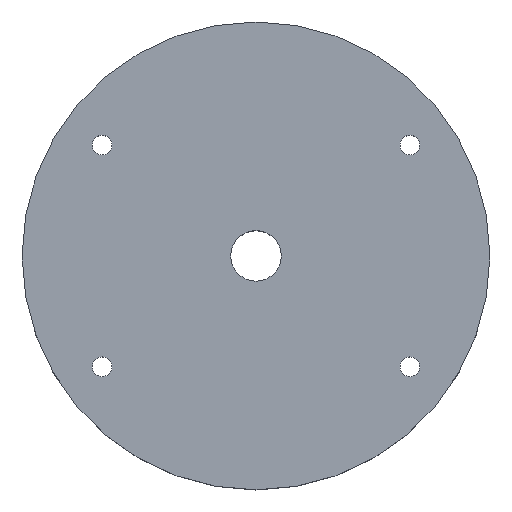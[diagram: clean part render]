
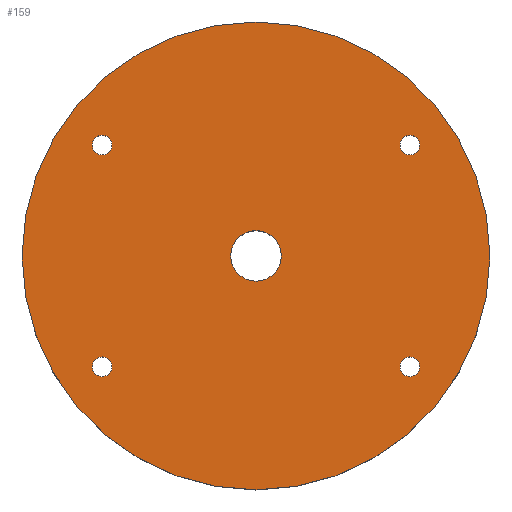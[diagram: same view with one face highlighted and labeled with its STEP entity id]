
A CAD part, top view. The second image highlights one B-rep face of the part: STEP entity #159.
In plain terms, the highlighted planar face has unit normal (0, 0, 1).
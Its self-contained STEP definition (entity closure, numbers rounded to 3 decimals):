
#24 = VERTEX_POINT('',#25);
#25 = CARTESIAN_POINT('',(38.,0.,7.));
#32 = CYLINDRICAL_SURFACE('',#33,38.);
#33 = AXIS2_PLACEMENT_3D('',#34,#35,#36);
#34 = CARTESIAN_POINT('',(0.,0.,0.));
#35 = DIRECTION('',(-0.,-0.,-1.));
#36 = DIRECTION('',(1.,0.,0.));
#51 = EDGE_CURVE('',#24,#24,#52,.T.);
#52 = SURFACE_CURVE('',#53,(#58,#65),.PCURVE_S1.);
#53 = CIRCLE('',#54,38.);
#54 = AXIS2_PLACEMENT_3D('',#55,#56,#57);
#55 = CARTESIAN_POINT('',(0.,0.,7.));
#56 = DIRECTION('',(0.,0.,1.));
#57 = DIRECTION('',(1.,0.,0.));
#58 = PCURVE('',#32,#59);
#59 = DEFINITIONAL_REPRESENTATION('',(#60),#64);
#60 = LINE('',#61,#62);
#61 = CARTESIAN_POINT('',(-0.,-7.));
#62 = VECTOR('',#63,1.);
#63 = DIRECTION('',(-1.,0.));
#64 = ( GEOMETRIC_REPRESENTATION_CONTEXT(2) 
PARAMETRIC_REPRESENTATION_CONTEXT() REPRESENTATION_CONTEXT('2D SPACE',''
  ) );
#65 = PCURVE('',#66,#71);
#66 = PLANE('',#67);
#67 = AXIS2_PLACEMENT_3D('',#68,#69,#70);
#68 = CARTESIAN_POINT('',(0.,0.,7.));
#69 = DIRECTION('',(0.,0.,1.));
#70 = DIRECTION('',(1.,0.,-0.));
#71 = DEFINITIONAL_REPRESENTATION('',(#72),#76);
#72 = CIRCLE('',#73,38.);
#73 = AXIS2_PLACEMENT_2D('',#74,#75);
#74 = CARTESIAN_POINT('',(0.,0.));
#75 = DIRECTION('',(1.,0.));
#76 = ( GEOMETRIC_REPRESENTATION_CONTEXT(2) 
PARAMETRIC_REPRESENTATION_CONTEXT() REPRESENTATION_CONTEXT('2D SPACE',''
  ) );
#159 = ADVANCED_FACE('',(#160,#163,#198,#233,#268,#303),#66,.T.);
#160 = FACE_BOUND('',#161,.T.);
#161 = EDGE_LOOP('',(#162));
#162 = ORIENTED_EDGE('',*,*,#51,.T.);
#163 = FACE_BOUND('',#164,.T.);
#164 = EDGE_LOOP('',(#165));
#165 = ORIENTED_EDGE('',*,*,#166,.T.);
#166 = EDGE_CURVE('',#167,#167,#169,.T.);
#167 = VERTEX_POINT('',#168);
#168 = CARTESIAN_POINT('',(-26.6,-18.,7.));
#169 = SURFACE_CURVE('',#170,(#175,#186),.PCURVE_S1.);
#170 = CIRCLE('',#171,1.6);
#171 = AXIS2_PLACEMENT_3D('',#172,#173,#174);
#172 = CARTESIAN_POINT('',(-25.,-18.,7.));
#173 = DIRECTION('',(0.,0.,-1.));
#174 = DIRECTION('',(-1.,0.,0.));
#175 = PCURVE('',#66,#176);
#176 = DEFINITIONAL_REPRESENTATION('',(#177),#185);
#177 = ( BOUNDED_CURVE() B_SPLINE_CURVE(2,(#178,#179,#180,#181,#182,#183
,#184),.UNSPECIFIED.,.T.,.F.) B_SPLINE_CURVE_WITH_KNOTS((1,2,2,2,2,1),(
    -2.094,0.,2.094,4.189,6.283,
8.378),.UNSPECIFIED.) CURVE() GEOMETRIC_REPRESENTATION_ITEM() 
RATIONAL_B_SPLINE_CURVE((1.,0.5,1.,0.5,1.,0.5,1.)) REPRESENTATION_ITEM(
  '') );
#178 = CARTESIAN_POINT('',(-26.6,-18.));
#179 = CARTESIAN_POINT('',(-26.6,-15.229));
#180 = CARTESIAN_POINT('',(-24.2,-16.614));
#181 = CARTESIAN_POINT('',(-21.8,-18.));
#182 = CARTESIAN_POINT('',(-24.2,-19.386));
#183 = CARTESIAN_POINT('',(-26.6,-20.771));
#184 = CARTESIAN_POINT('',(-26.6,-18.));
#185 = ( GEOMETRIC_REPRESENTATION_CONTEXT(2) 
PARAMETRIC_REPRESENTATION_CONTEXT() REPRESENTATION_CONTEXT('2D SPACE',''
  ) );
#186 = PCURVE('',#187,#192);
#187 = CYLINDRICAL_SURFACE('',#188,1.6);
#188 = AXIS2_PLACEMENT_3D('',#189,#190,#191);
#189 = CARTESIAN_POINT('',(-25.,-18.,7.));
#190 = DIRECTION('',(0.,0.,-1.));
#191 = DIRECTION('',(-1.,0.,0.));
#192 = DEFINITIONAL_REPRESENTATION('',(#193),#197);
#193 = LINE('',#194,#195);
#194 = CARTESIAN_POINT('',(0.,0.));
#195 = VECTOR('',#196,1.);
#196 = DIRECTION('',(1.,0.));
#197 = ( GEOMETRIC_REPRESENTATION_CONTEXT(2) 
PARAMETRIC_REPRESENTATION_CONTEXT() REPRESENTATION_CONTEXT('2D SPACE',''
  ) );
#198 = FACE_BOUND('',#199,.T.);
#199 = EDGE_LOOP('',(#200));
#200 = ORIENTED_EDGE('',*,*,#201,.T.);
#201 = EDGE_CURVE('',#202,#202,#204,.T.);
#202 = VERTEX_POINT('',#203);
#203 = CARTESIAN_POINT('',(23.4,-18.,7.));
#204 = SURFACE_CURVE('',#205,(#210,#221),.PCURVE_S1.);
#205 = CIRCLE('',#206,1.6);
#206 = AXIS2_PLACEMENT_3D('',#207,#208,#209);
#207 = CARTESIAN_POINT('',(25.,-18.,7.));
#208 = DIRECTION('',(0.,0.,-1.));
#209 = DIRECTION('',(-1.,0.,0.));
#210 = PCURVE('',#66,#211);
#211 = DEFINITIONAL_REPRESENTATION('',(#212),#220);
#212 = ( BOUNDED_CURVE() B_SPLINE_CURVE(2,(#213,#214,#215,#216,#217,#218
,#219),.UNSPECIFIED.,.T.,.F.) B_SPLINE_CURVE_WITH_KNOTS((1,2,2,2,2,1),(
    -2.094,0.,2.094,4.189,6.283,
8.378),.UNSPECIFIED.) CURVE() GEOMETRIC_REPRESENTATION_ITEM() 
RATIONAL_B_SPLINE_CURVE((1.,0.5,1.,0.5,1.,0.5,1.)) REPRESENTATION_ITEM(
  '') );
#213 = CARTESIAN_POINT('',(23.4,-18.));
#214 = CARTESIAN_POINT('',(23.4,-15.229));
#215 = CARTESIAN_POINT('',(25.8,-16.614));
#216 = CARTESIAN_POINT('',(28.2,-18.));
#217 = CARTESIAN_POINT('',(25.8,-19.386));
#218 = CARTESIAN_POINT('',(23.4,-20.771));
#219 = CARTESIAN_POINT('',(23.4,-18.));
#220 = ( GEOMETRIC_REPRESENTATION_CONTEXT(2) 
PARAMETRIC_REPRESENTATION_CONTEXT() REPRESENTATION_CONTEXT('2D SPACE',''
  ) );
#221 = PCURVE('',#222,#227);
#222 = CYLINDRICAL_SURFACE('',#223,1.6);
#223 = AXIS2_PLACEMENT_3D('',#224,#225,#226);
#224 = CARTESIAN_POINT('',(25.,-18.,7.));
#225 = DIRECTION('',(0.,0.,-1.));
#226 = DIRECTION('',(-1.,0.,0.));
#227 = DEFINITIONAL_REPRESENTATION('',(#228),#232);
#228 = LINE('',#229,#230);
#229 = CARTESIAN_POINT('',(0.,0.));
#230 = VECTOR('',#231,1.);
#231 = DIRECTION('',(1.,0.));
#232 = ( GEOMETRIC_REPRESENTATION_CONTEXT(2) 
PARAMETRIC_REPRESENTATION_CONTEXT() REPRESENTATION_CONTEXT('2D SPACE',''
  ) );
#233 = FACE_BOUND('',#234,.T.);
#234 = EDGE_LOOP('',(#235));
#235 = ORIENTED_EDGE('',*,*,#236,.T.);
#236 = EDGE_CURVE('',#237,#237,#239,.T.);
#237 = VERTEX_POINT('',#238);
#238 = CARTESIAN_POINT('',(-26.6,18.,7.));
#239 = SURFACE_CURVE('',#240,(#245,#256),.PCURVE_S1.);
#240 = CIRCLE('',#241,1.6);
#241 = AXIS2_PLACEMENT_3D('',#242,#243,#244);
#242 = CARTESIAN_POINT('',(-25.,18.,7.));
#243 = DIRECTION('',(0.,0.,-1.));
#244 = DIRECTION('',(-1.,0.,0.));
#245 = PCURVE('',#66,#246);
#246 = DEFINITIONAL_REPRESENTATION('',(#247),#255);
#247 = ( BOUNDED_CURVE() B_SPLINE_CURVE(2,(#248,#249,#250,#251,#252,#253
,#254),.UNSPECIFIED.,.T.,.F.) B_SPLINE_CURVE_WITH_KNOTS((1,2,2,2,2,1),(
    -2.094,0.,2.094,4.189,6.283,
8.378),.UNSPECIFIED.) CURVE() GEOMETRIC_REPRESENTATION_ITEM() 
RATIONAL_B_SPLINE_CURVE((1.,0.5,1.,0.5,1.,0.5,1.)) REPRESENTATION_ITEM(
  '') );
#248 = CARTESIAN_POINT('',(-26.6,18.));
#249 = CARTESIAN_POINT('',(-26.6,20.771));
#250 = CARTESIAN_POINT('',(-24.2,19.386));
#251 = CARTESIAN_POINT('',(-21.8,18.));
#252 = CARTESIAN_POINT('',(-24.2,16.614));
#253 = CARTESIAN_POINT('',(-26.6,15.229));
#254 = CARTESIAN_POINT('',(-26.6,18.));
#255 = ( GEOMETRIC_REPRESENTATION_CONTEXT(2) 
PARAMETRIC_REPRESENTATION_CONTEXT() REPRESENTATION_CONTEXT('2D SPACE',''
  ) );
#256 = PCURVE('',#257,#262);
#257 = CYLINDRICAL_SURFACE('',#258,1.6);
#258 = AXIS2_PLACEMENT_3D('',#259,#260,#261);
#259 = CARTESIAN_POINT('',(-25.,18.,7.));
#260 = DIRECTION('',(0.,0.,-1.));
#261 = DIRECTION('',(-1.,0.,0.));
#262 = DEFINITIONAL_REPRESENTATION('',(#263),#267);
#263 = LINE('',#264,#265);
#264 = CARTESIAN_POINT('',(0.,0.));
#265 = VECTOR('',#266,1.);
#266 = DIRECTION('',(1.,0.));
#267 = ( GEOMETRIC_REPRESENTATION_CONTEXT(2) 
PARAMETRIC_REPRESENTATION_CONTEXT() REPRESENTATION_CONTEXT('2D SPACE',''
  ) );
#268 = FACE_BOUND('',#269,.T.);
#269 = EDGE_LOOP('',(#270));
#270 = ORIENTED_EDGE('',*,*,#271,.T.);
#271 = EDGE_CURVE('',#272,#272,#274,.T.);
#272 = VERTEX_POINT('',#273);
#273 = CARTESIAN_POINT('',(4.1,0.,7.));
#274 = SURFACE_CURVE('',#275,(#280,#291),.PCURVE_S1.);
#275 = CIRCLE('',#276,4.1);
#276 = AXIS2_PLACEMENT_3D('',#277,#278,#279);
#277 = CARTESIAN_POINT('',(0.,0.,7.));
#278 = DIRECTION('',(0.,0.,-1.));
#279 = DIRECTION('',(1.,0.,0.));
#280 = PCURVE('',#66,#281);
#281 = DEFINITIONAL_REPRESENTATION('',(#282),#290);
#282 = ( BOUNDED_CURVE() B_SPLINE_CURVE(2,(#283,#284,#285,#286,#287,#288
,#289),.UNSPECIFIED.,.T.,.F.) B_SPLINE_CURVE_WITH_KNOTS((1,2,2,2,2,1),(
    -2.094,0.,2.094,4.189,6.283,
8.378),.UNSPECIFIED.) CURVE() GEOMETRIC_REPRESENTATION_ITEM() 
RATIONAL_B_SPLINE_CURVE((1.,0.5,1.,0.5,1.,0.5,1.)) REPRESENTATION_ITEM(
  '') );
#283 = CARTESIAN_POINT('',(4.1,0.));
#284 = CARTESIAN_POINT('',(4.1,-7.101));
#285 = CARTESIAN_POINT('',(-2.05,-3.551));
#286 = CARTESIAN_POINT('',(-8.2,0.));
#287 = CARTESIAN_POINT('',(-2.05,3.551));
#288 = CARTESIAN_POINT('',(4.1,7.101));
#289 = CARTESIAN_POINT('',(4.1,0.));
#290 = ( GEOMETRIC_REPRESENTATION_CONTEXT(2) 
PARAMETRIC_REPRESENTATION_CONTEXT() REPRESENTATION_CONTEXT('2D SPACE',''
  ) );
#291 = PCURVE('',#292,#297);
#292 = CYLINDRICAL_SURFACE('',#293,4.1);
#293 = AXIS2_PLACEMENT_3D('',#294,#295,#296);
#294 = CARTESIAN_POINT('',(0.,0.,0.));
#295 = DIRECTION('',(-0.,-0.,-1.));
#296 = DIRECTION('',(1.,0.,0.));
#297 = DEFINITIONAL_REPRESENTATION('',(#298),#302);
#298 = LINE('',#299,#300);
#299 = CARTESIAN_POINT('',(-6.283,-7.));
#300 = VECTOR('',#301,1.);
#301 = DIRECTION('',(1.,-0.));
#302 = ( GEOMETRIC_REPRESENTATION_CONTEXT(2) 
PARAMETRIC_REPRESENTATION_CONTEXT() REPRESENTATION_CONTEXT('2D SPACE',''
  ) );
#303 = FACE_BOUND('',#304,.T.);
#304 = EDGE_LOOP('',(#305));
#305 = ORIENTED_EDGE('',*,*,#306,.T.);
#306 = EDGE_CURVE('',#307,#307,#309,.T.);
#307 = VERTEX_POINT('',#308);
#308 = CARTESIAN_POINT('',(23.4,18.,7.));
#309 = SURFACE_CURVE('',#310,(#315,#326),.PCURVE_S1.);
#310 = CIRCLE('',#311,1.6);
#311 = AXIS2_PLACEMENT_3D('',#312,#313,#314);
#312 = CARTESIAN_POINT('',(25.,18.,7.));
#313 = DIRECTION('',(0.,0.,-1.));
#314 = DIRECTION('',(-1.,0.,0.));
#315 = PCURVE('',#66,#316);
#316 = DEFINITIONAL_REPRESENTATION('',(#317),#325);
#317 = ( BOUNDED_CURVE() B_SPLINE_CURVE(2,(#318,#319,#320,#321,#322,#323
,#324),.UNSPECIFIED.,.T.,.F.) B_SPLINE_CURVE_WITH_KNOTS((1,2,2,2,2,1),(
    -2.094,0.,2.094,4.189,6.283,
8.378),.UNSPECIFIED.) CURVE() GEOMETRIC_REPRESENTATION_ITEM() 
RATIONAL_B_SPLINE_CURVE((1.,0.5,1.,0.5,1.,0.5,1.)) REPRESENTATION_ITEM(
  '') );
#318 = CARTESIAN_POINT('',(23.4,18.));
#319 = CARTESIAN_POINT('',(23.4,20.771));
#320 = CARTESIAN_POINT('',(25.8,19.386));
#321 = CARTESIAN_POINT('',(28.2,18.));
#322 = CARTESIAN_POINT('',(25.8,16.614));
#323 = CARTESIAN_POINT('',(23.4,15.229));
#324 = CARTESIAN_POINT('',(23.4,18.));
#325 = ( GEOMETRIC_REPRESENTATION_CONTEXT(2) 
PARAMETRIC_REPRESENTATION_CONTEXT() REPRESENTATION_CONTEXT('2D SPACE',''
  ) );
#326 = PCURVE('',#327,#332);
#327 = CYLINDRICAL_SURFACE('',#328,1.6);
#328 = AXIS2_PLACEMENT_3D('',#329,#330,#331);
#329 = CARTESIAN_POINT('',(25.,18.,7.));
#330 = DIRECTION('',(0.,0.,-1.));
#331 = DIRECTION('',(-1.,0.,0.));
#332 = DEFINITIONAL_REPRESENTATION('',(#333),#337);
#333 = LINE('',#334,#335);
#334 = CARTESIAN_POINT('',(0.,0.));
#335 = VECTOR('',#336,1.);
#336 = DIRECTION('',(1.,0.));
#337 = ( GEOMETRIC_REPRESENTATION_CONTEXT(2) 
PARAMETRIC_REPRESENTATION_CONTEXT() REPRESENTATION_CONTEXT('2D SPACE',''
  ) );
